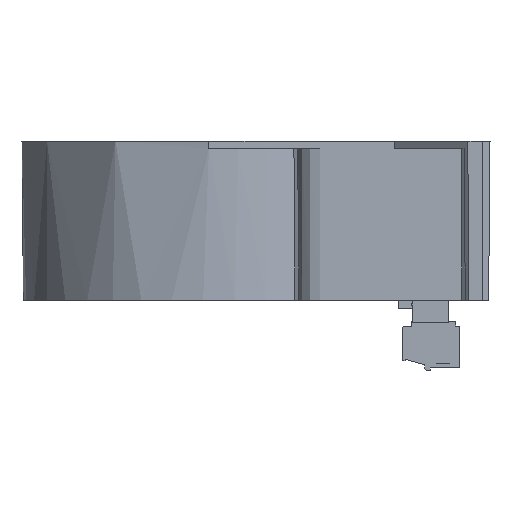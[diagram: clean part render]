
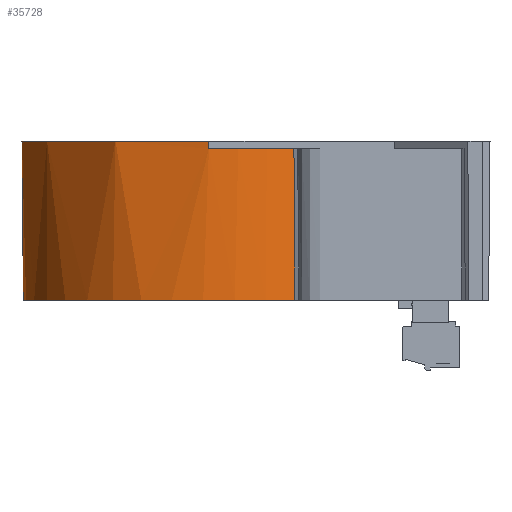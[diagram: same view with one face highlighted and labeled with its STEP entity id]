
A CAD part, left-side view. The second image highlights one B-rep face of the part: STEP entity #35728.
In plain terms, the highlighted conical face has half-angle 0.5 degrees and reference radius 35.5 mm.
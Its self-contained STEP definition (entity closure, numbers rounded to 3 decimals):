
#439=CONICAL_SURFACE('',#37797,35.5,0.5);
#932=B_SPLINE_CURVE_WITH_KNOTS('',3,(#51002,#51003,#51004,#51005),
 .UNSPECIFIED.,.F.,.F.,(4,4),(0.195,3.095),
 .UNSPECIFIED.);
#1079=CIRCLE('',#37719,35.515);
#1101=CIRCLE('',#37793,35.768);
#1103=CIRCLE('',#37798,35.781);
#2637=FACE_OUTER_BOUND('',#4652,.T.);
#4652=EDGE_LOOP('',(#24225,#24226,#24227,#24228,#24229,#24230));
#7236=LINE('',#50948,#11367);
#7242=LINE('',#51026,#11373);
#11367=VECTOR('',#40927,30.451);
#11373=VECTOR('',#40951,1.45);
#15307=VERTEX_POINT('',#50406);
#15308=VERTEX_POINT('',#50432);
#15481=VERTEX_POINT('',#50947);
#15484=VERTEX_POINT('',#50978);
#15487=VERTEX_POINT('',#51013);
#15490=VERTEX_POINT('',#51025);
#18753=EDGE_CURVE('',#15307,#15308,#1079,.T.);
#18975=EDGE_CURVE('',#15481,#15308,#7236,.F.);
#18980=EDGE_CURVE('',#15484,#15307,#932,.T.);
#18984=EDGE_CURVE('',#15484,#15487,#1101,.T.);
#18989=EDGE_CURVE('',#15490,#15487,#7242,.F.);
#18990=EDGE_CURVE('',#15490,#15481,#1103,.F.);
#24225=ORIENTED_EDGE('',*,*,#18980,.F.);
#24226=ORIENTED_EDGE('',*,*,#18984,.T.);
#24227=ORIENTED_EDGE('',*,*,#18989,.F.);
#24228=ORIENTED_EDGE('',*,*,#18990,.T.);
#24229=ORIENTED_EDGE('',*,*,#18975,.T.);
#24230=ORIENTED_EDGE('',*,*,#18753,.F.);
#35728=ADVANCED_FACE('',(#2637),#439,.T.);
#37719=AXIS2_PLACEMENT_3D('',#50433,#40594,#40595);
#37793=AXIS2_PLACEMENT_3D('',#51015,#40938,#40939);
#37797=AXIS2_PLACEMENT_3D('',#51024,#40949,#40950);
#37798=AXIS2_PLACEMENT_3D('',#51027,#40952,#40953);
#40594=DIRECTION('center_axis',(0.,0.,
-1.));
#40595=DIRECTION('ref_axis',(0.,1.,0.));
#40927=DIRECTION('',(0.,0.009,1.));
#40938=DIRECTION('center_axis',(0.,0.,
-1.));
#40939=DIRECTION('ref_axis',(0.,1.,0.));
#40949=DIRECTION('center_axis',(0.,0.,
1.));
#40950=DIRECTION('ref_axis',(0.,1.,0.));
#40951=DIRECTION('',(-0.009,0.,1.));
#40952=DIRECTION('center_axis',(0.,0.,
1.));
#40953=DIRECTION('ref_axis',(0.,1.,0.));
#50406=CARTESIAN_POINT('',(-34.355,-8.25,-15.223));
#50432=CARTESIAN_POINT('',(-2.891,43.737,-15.223));
#50433=CARTESIAN_POINT('Origin',(-2.891,8.221,-15.223));
#50947=CARTESIAN_POINT('',(-2.891,44.002,15.227));
#50948=CARTESIAN_POINT('',(-2.891,43.721,-16.973));
#50978=CARTESIAN_POINT('',(-34.744,-8.05,13.777));
#51002=CARTESIAN_POINT('Ctrl Pts',(-34.744,-8.05,13.777));
#51003=CARTESIAN_POINT('Ctrl Pts',(-34.617,-8.113,
4.11));
#51004=CARTESIAN_POINT('Ctrl Pts',(-34.488,-8.179,
-5.557));
#51005=CARTESIAN_POINT('Ctrl Pts',(-34.355,-8.25,
-15.223));
#51013=CARTESIAN_POINT('',(-38.659,8.221,13.777));
#51015=CARTESIAN_POINT('Origin',(-2.891,8.221,13.777));
#51024=CARTESIAN_POINT('Origin',(-2.891,8.221,-16.973));
#51025=CARTESIAN_POINT('',(-38.672,8.221,15.227));
#51026=CARTESIAN_POINT('',(-38.391,8.221,-16.973));
#51027=CARTESIAN_POINT('Origin',(-2.891,8.221,15.227));
